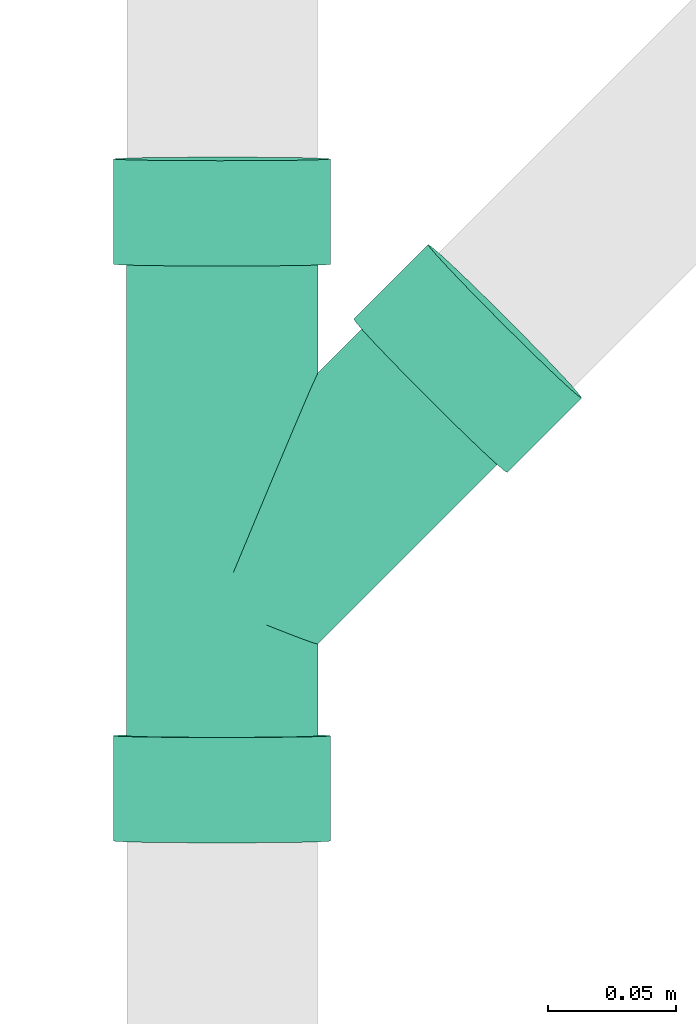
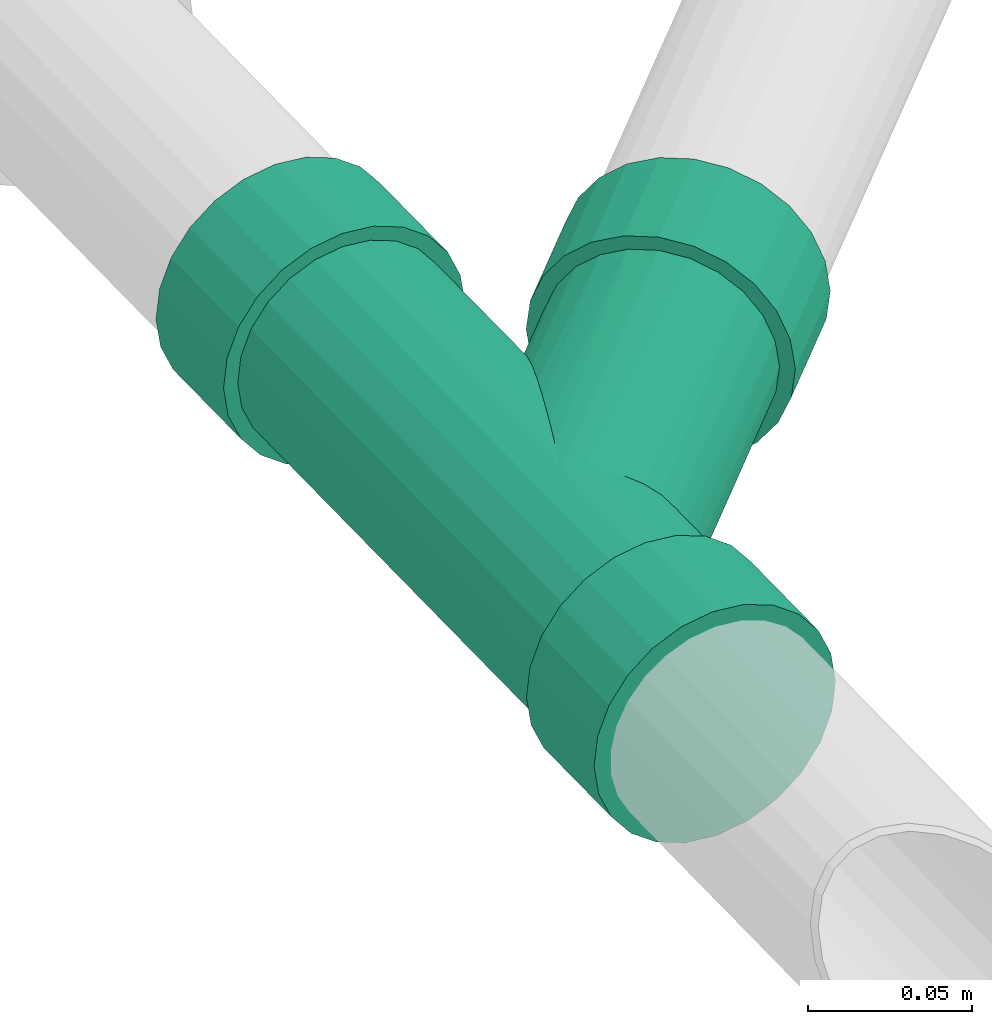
# One storey, part 14 of 18: 1 flow fitting.
"""IFC2X3 building model written with IfcOpenShell, lengths in millimetres."""

import ifcopenshell
import ifcopenshell.guid

model = None  # the IFC model being written
_history = None  # IfcOwnerHistory: only IFC2X3 demands one
_inside = {}  # id of a spatial element -> (the spatial element, [elements in it])
_under = {}  # id of a project, library or spatial element -> (it, [spatial elements below it])
_declared = {}  # id of a project -> (the project, [libraries it declares])
_typed = {}  # id of a type object -> (the type object, [elements of that type])
_made_of = {}  # id of a material, layer set ... -> (it, [elements and type objects made of it])


def new_model(schema):
    """Start an empty IFC model of exactly this schema.

    Asked for "IFC4X3", IfcOpenShell would pick the latest addendum, in which some entities
    have other attributes; the version numbers below select the first issue.
    IFC2X3 requires an IfcOwnerHistory on every rooted entity: one is made here for all.
    """
    global model, _history
    if schema == "IFC4X3":
        model = ifcopenshell.file(schema_version=(4, 3, 0, 0))
    else:
        model = ifcopenshell.file(schema=schema)
    _inside.clear()
    _under.clear()
    _declared.clear()
    _typed.clear()
    _made_of.clear()
    _history = None
    if model.schema == "IFC2X3":
        org = make("IfcOrganization", Name="unknown")
        user = make(
            "IfcPersonAndOrganization",
            ThePerson=make("IfcPerson", FamilyName="unknown"),
            TheOrganization=org,
        )
        app = make(
            "IfcApplication",
            ApplicationDeveloper=org,
            Version="unknown",
            ApplicationFullName="unknown",
            ApplicationIdentifier="unknown",
        )
        _history = make(
            "IfcOwnerHistory",
            OwningUser=user,
            OwningApplication=app,
            ChangeAction="ADDED",
            CreationDate=0,
        )
    return model


def make(cls, **values):
    """One entity of the class cls with the attributes given. An attribute that is None is left unset."""
    return model.create_entity(
        cls, **{name: value for name, value in values.items() if value is not None}
    )


def entity(cls, *values):
    """Any entity or typed value of the class cls, its attributes in the order of the schema. None: left unset."""
    e = model.create_entity(cls)
    for i, value in enumerate(values):
        if value is not None:
            e[i] = value
    return e


def rooted(cls, **values):
    """An entity with a GlobalId (a new one), such as an element, a storey or a relation."""
    return make(cls, GlobalId=ifcopenshell.guid.new(), OwnerHistory=_history, **values)


def si_unit(unit_type, name, prefix=None):
    """IfcSIUnit, for example si_unit("LENGTHUNIT", "METRE", prefix="MILLI")."""
    return make("IfcSIUnit", UnitType=unit_type, Prefix=prefix, Name=name)


def converted_unit(unit_type, name, factor, base, dimensions=None, offset=None):
    """IfcConversionBasedUnit, such as the inch: factor (a typed value) times the base unit."""
    return make(
        "IfcConversionBasedUnit"
        if offset is None
        else "IfcConversionBasedUnitWithOffset",
        ConversionOffset=offset,
        Dimensions=None
        if dimensions is None
        else entity("IfcDimensionalExponents", *dimensions),
        UnitType=unit_type,
        Name=name,
        ConversionFactor=make(
            "IfcMeasureWithUnit", ValueComponent=factor, UnitComponent=base
        ),
    )


def derived_unit(unit_type, elements):
    """IfcDerivedUnit: a product of units, each with its exponent."""
    return make(
        "IfcDerivedUnit",
        Elements=[
            make("IfcDerivedUnitElement", Unit=unit, Exponent=power)
            for unit, power in elements
        ],
        UnitType=unit_type,
    )


def assignment(units):
    """IfcUnitAssignment: the units of a project."""
    return None if units is None else make("IfcUnitAssignment", Units=units)


def point(xyz):
    """IfcCartesianPoint."""
    return None if xyz is None else make("IfcCartesianPoint", Coordinates=xyz)


def direction(xyz):
    """IfcDirection."""
    return None if xyz is None else make("IfcDirection", DirectionRatios=xyz)


def frame(location, z_axis=None, x_axis=None):
    """IfcAxis2Placement3D, a coordinate frame: its origin and axes. An axis left out is left unset."""
    return make(
        "IfcAxis2Placement3D",
        Location=point(location),
        Axis=direction(z_axis),
        RefDirection=direction(x_axis),
    )


def origin_with_axes():
    """The frame at (0, 0, 0) with the z axis (0, 0, 1) and the x axis (1, 0, 0) written out."""
    return frame((0.0, 0.0, 0.0), z_axis=(0.0, 0.0, 1.0), x_axis=(1.0, 0.0, 0.0))


def place(relative_to, where):
    """IfcLocalPlacement: puts the frame where relative to a parent placement (None: the world)."""
    return make(
        "IfcLocalPlacement", PlacementRelTo=relative_to, RelativePlacement=where
    )


def context(
    kind, dimensions, precision=None, world=None, true_north=None, identifier=None
):
    """IfcGeometricRepresentationContext, for example the 3D "Model" context."""
    return make(
        "IfcGeometricRepresentationContext",
        ContextIdentifier=identifier,
        ContextType=kind,
        CoordinateSpaceDimension=dimensions,
        Precision=precision,
        WorldCoordinateSystem=world,
        TrueNorth=true_north,
    )


def subcontext(parent, identifier, kind, view, scale=None):
    """IfcGeometricRepresentationSubContext, for example "Body" below "Model"."""
    return make(
        "IfcGeometricRepresentationSubContext",
        ContextIdentifier=identifier,
        ContextType=kind,
        ParentContext=parent,
        TargetScale=scale,
        TargetView=view,
    )


def project(units=None, contexts=None):
    """IfcProject with its units and contexts."""
    return rooted(
        "IfcProject",
        Name="project",
        RepresentationContexts=contexts,
        UnitsInContext=assignment(units),
    )


def spatial(cls, under=None, at=None, **own):
    """A site, building, storey or space (cls), placed at a placement, below another one or the project."""
    s = rooted(cls, ObjectPlacement=at, **own)
    if under is not None:
        _under.setdefault(under.id(), (under, []))[1].append(s)
    return s


def faces_of(points, faces, orient=None, outer=None):
    """IfcFace entities. A face is a list of loops; a loop is a list of indices into points, from 0.

    orient and outer hold one flag for each loop. By default every Orientation is true, the
    first loop of a face is its IfcFaceOuterBound and the others are IfcFaceBound.
    """
    made = []
    for i, loops in enumerate(faces):
        bounds = []
        for j, loop in enumerate(loops):
            is_outer = j == 0 if outer is None else outer[i][j]
            bounds.append(
                make(
                    "IfcFaceOuterBound" if is_outer else "IfcFaceBound",
                    Bound=make("IfcPolyLoop", Polygon=[points[k] for k in loop]),
                    Orientation=True if orient is None else orient[i][j],
                )
            )
        made.append(make("IfcFace", Bounds=bounds))
    return made


def open_shell(faces, orient=None, outer=None):
    """The faces of one IfcOpenShell. surface_model builds it on its shared points."""
    return ("IfcOpenShell", faces, orient, outer)


def surface_model(cls, points, shells):
    """IfcFaceBasedSurfaceModel or IfcShellBasedSurfaceModel (cls): surfaces that need not close."""
    shared = [point(p) for p in points]
    made = [make(c, CfsFaces=faces_of(shared, fs, o, b)) for c, fs, o, b in shells]
    if cls == "IfcFaceBasedSurfaceModel":
        return make(cls, FbsmFaces=made)
    return make(cls, SbsmBoundary=made)


def shape(context_of_items, identifier, shape_type, items):
    """IfcShapeRepresentation: the items that make up one representation, for example the "Body"."""
    return make(
        "IfcShapeRepresentation",
        ContextOfItems=context_of_items,
        RepresentationIdentifier=identifier,
        RepresentationType=shape_type,
        Items=items,
    )


def source(mapping_origin, context_of_items, identifier, shape_type, items):
    """IfcRepresentationMap: a shape defined once, which mapped items show again and again."""
    return make(
        "IfcRepresentationMap",
        MappingOrigin=mapping_origin,
        MappedRepresentation=shape(context_of_items, identifier, shape_type, items),
    )


def transform(
    local_origin,
    x_axis=None,
    y_axis=None,
    z_axis=None,
    scale=None,
    scale2=None,
    scale3=None,
    uniform=True,
):
    """IfcCartesianTransformationOperator3D, or its non-uniform kind. x_axis, y_axis, z_axis: its Axis1, 2, 3."""
    if uniform:
        return make(
            "IfcCartesianTransformationOperator3D",
            Axis1=direction(x_axis),
            Axis2=direction(y_axis),
            LocalOrigin=point(local_origin),
            Scale=scale,
            Axis3=direction(z_axis),
        )
    return make(
        "IfcCartesianTransformationOperator3DnonUniform",
        Axis1=direction(x_axis),
        Axis2=direction(y_axis),
        LocalOrigin=point(local_origin),
        Scale=scale,
        Axis3=direction(z_axis),
        Scale2=scale2,
        Scale3=scale3,
    )


def mapped(mapping_source, mapping_target):
    """IfcMappedItem: shows the shape of a source again, moved by a transform."""
    return make(
        "IfcMappedItem", MappingSource=mapping_source, MappingTarget=mapping_target
    )


def made_of(thing, what):
    """Note that an element or type object is made of a material, layer set ...; save() writes the relation."""
    if what is not None:
        _made_of.setdefault(what.id(), (what, []))[1].append(thing)
    return thing


def type_object(cls, material=None, **own):
    """A type object (cls), such as IfcWallType, which elements share."""
    return made_of(rooted(cls, **own), material)


def element(
    cls,
    number,
    at=None,
    inside=None,
    cuts=None,
    type_object=None,
    material=None,
    context=None,
    identifier="Body",
    shape_type=None,
    held_by="IfcProductDefinitionShape",
    body=None,
    shapes=None,
    **own,
):
    """One element of the class cls, such as IfcWall. Its Tag is "e" and its number.

    at: its placement. inside: the storey or other place that contains it. cuts: it is an
    opening in that element (IfcRelVoidsElement). A single representation is given by context,
    identifier, shape_type and body (its items); several are given by shapes. held_by: the class
    of the entity that holds the representations. save() writes the other relations.
    """
    e = rooted(cls, Tag="e%d" % number, ObjectPlacement=at, **own)
    if body is not None:
        shapes = [shape(context, identifier, shape_type, body)]
    if shapes is not None:
        e.Representation = make(held_by, Representations=shapes)
    if inside is not None:
        _inside.setdefault(inside.id(), (inside, []))[1].append(e)
    if cuts is not None:
        rooted(
            "IfcRelVoidsElement", RelatingBuildingElement=cuts, RelatedOpeningElement=e
        )
    if type_object is not None:
        _typed.setdefault(type_object.id(), (type_object, []))[1].append(e)
    return made_of(e, material)


def aggregate(whole, parts):
    """IfcRelAggregates: a whole, such as a stair, and the parts it consists of."""
    return rooted("IfcRelAggregates", RelatingObject=whole, RelatedObjects=parts)


def save(model, path):
    """Write the relations noted so far, then the file.

    IfcRelAggregates (storeys below a building ...), IfcRelContainedInSpatialStructure (elements
    in a storey), IfcRelDefinesByType, IfcRelAssociatesMaterial and IfcRelDeclares: one each for
    every whole, place, type object, material and project.
    """
    for whole, parts in _under.values():
        aggregate(whole, parts)
    for where, things in _inside.values():
        rooted(
            "IfcRelContainedInSpatialStructure",
            RelatedElements=things,
            RelatingStructure=where,
        )
    for kind, things in _typed.values():
        rooted("IfcRelDefinesByType", RelatedObjects=things, RelatingType=kind)
    for what, things in _made_of.values():
        rooted("IfcRelAssociatesMaterial", RelatedObjects=things, RelatingMaterial=what)
    for by, libraries in _declared.values():
        rooted("IfcRelDeclares", RelatingContext=by, RelatedDefinitions=libraries)
    model.write(path)


model = new_model("IFC2X3")

# Units and contexts
model_context = context("Model", 3, precision=0.01, world=frame((0.0, 4.29681676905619e-09, 0.0)), true_north=direction((4.01073788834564e-13, 1.0)))
plan_context = context("Plan", 3, precision=0.01, world=frame((0.0, 4.29681676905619e-09, 0.0)), true_north=direction((4.01073788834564e-13, 1.0)))
body_context = subcontext(model_context, "Body", "Model", "MODEL_VIEW")
ifc_project = project(units=[converted_unit("PLANEANGLEUNIT", "DEGREE", entity("IfcPositiveLengthMeasure", 0.0174532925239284), si_unit("PLANEANGLEUNIT", "RADIAN"), dimensions=[0, 0, 0, 0, 0, 0, 0]), si_unit("AREAUNIT", "SQUARE_METRE"), si_unit("LENGTHUNIT", "METRE", prefix="MILLI"), si_unit("MASSUNIT", "GRAM", prefix="KILO"), si_unit("POWERUNIT", "WATT"), si_unit("PRESSUREUNIT", "PASCAL", prefix="KILO"), si_unit("FORCEUNIT", "NEWTON", prefix="KILO"), si_unit("ELECTRICVOLTAGEUNIT", "VOLT"), si_unit("ELECTRICCURRENTUNIT", "AMPERE"), si_unit("THERMODYNAMICTEMPERATUREUNIT", "DEGREE_CELSIUS"), si_unit("TIMEUNIT", "SECOND"), si_unit("VOLUMEUNIT", "CUBIC_METRE"), derived_unit("LINEARVELOCITYUNIT", [(si_unit("LENGTHUNIT", "METRE"), 1), (si_unit("TIMEUNIT", "SECOND"), -1)]), derived_unit("VOLUMETRICFLOWRATEUNIT", [(si_unit("VOLUMEUNIT", "CUBIC_METRE"), 1), (si_unit("TIMEUNIT", "SECOND"), -1)]), derived_unit("THERMALTRANSMITTANCEUNIT", [(si_unit("POWERUNIT", "WATT"), 1), (si_unit("THERMODYNAMICTEMPERATUREUNIT", "KELVIN"), -1), (si_unit("AREAUNIT", "SQUARE_METRE"), -1)]), derived_unit("SOUNDPRESSUREUNIT", [(si_unit("PRESSUREUNIT", "PASCAL"), 1)])], contexts=[model_context, plan_context])

# Site, building, storey
site_placement = place(None, frame((0.0, -4.29681676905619e-09, 0.0), z_axis=(0.0, 0.0, 1.0), x_axis=(1.0, 0.0, 0.0)))
site = spatial("IfcSite", under=ifc_project, at=site_placement, Name="ENGM", CompositionType="ELEMENT")
building_placement = place(site_placement, frame((0.0, 4.29681676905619e-09, 0.0), z_axis=(0.0, 0.0, 1.0), x_axis=(1.0, 0.0, 0.0)))
building = spatial("IfcBuilding", under=site, at=building_placement, Name="TI", CompositionType="ELEMENT")
storey_placement = place(building_placement, frame((0.0, 0.0, 204000.0), z_axis=(0.0, 0.0, 1.0), x_axis=(1.0, 0.0, 0.0)))
storey = spatial("IfcBuildingStorey", under=building, at=storey_placement, Name="Nivå D", CompositionType="ELEMENT", Elevation=204000.0)

# Flow fitting
pipe_fitting_type = type_object("IfcPipeFittingType", Name="magi_sewer_tee_wye_NOR", PredefinedType="JUNCTION")
shared_shape = source(origin_with_axes(), body_context, "Body", "SurfaceModel", [
    surface_model("IfcShellBasedSurfaceModel", [(174.47758, 21.25, -36.80608), (174.47758, -10.99981, -41.05185), (174.47758, 10.99981, -41.05185), (174.47758, 36.80608, -21.25), (174.47758, 30.05204, -30.05204), (174.47758, 41.05185, -10.99981), (174.47758, 42.5, 0.0), (174.47758, -41.05185, -10.99981), (174.47758, -21.25, -36.80608), (174.47758, 0.0, -42.5), (174.47758, -30.05204, -30.05204), (174.47758, -36.80608, -21.25), (174.47758, 41.05185, 10.99981), (174.47758, 36.80608, 21.25), (174.47758, 30.05204, 30.05204), (174.47758, 10.99981, 41.05185), (174.47758, -36.80608, 21.25), (174.47758, 21.25, 36.80608), (174.47758, -10.99981, 41.05185), (174.47758, 0.0, 42.5), (174.47758, -41.05185, 10.99981), (174.47758, -42.5, 0.0), (174.47758, -30.05204, 30.05204), (174.47758, -21.25, 36.80608), (133.22758, 10.99981, 41.05185), (133.22758, -10.99981, 41.05185), (133.22758, 0.0, 42.5), (133.22758, 41.05185, 10.99981), (133.22758, 21.25, 36.80608), (133.22758, 30.05204, 30.05204), (133.22758, 36.80608, 21.25), (133.22758, -41.05185, -10.99981), (133.22758, -42.5, 0.0), (133.22758, -30.05204, 30.05204), (133.22758, -21.25, 36.80608), (133.22758, -36.80608, 21.25), (133.22758, -41.05185, 10.99981), (133.22758, 42.5, 0.0), (133.22758, 41.05185, -10.99981), (133.22758, 36.80608, -21.25), (133.22758, 21.25, -36.80608), (133.22758, 30.05204, -30.05204), (133.22758, -10.99981, -41.05185), (133.22758, 10.99981, -41.05185), (133.22758, -30.05204, -30.05204), (133.22758, -36.80608, -21.25), (133.22758, -21.25, -36.80608), (133.22758, 0.0, -42.5), (81.71415, -81.6952, -42.5), (73.93702, -89.47414, -41.05185), (89.49129, -73.91625, -41.05185), (96.73843, -66.66744, -36.80608), (102.96168, -60.44274, -30.05204), (110.73883, -52.66379, -10.99981), (107.73696, -55.66635, -21.25), (51.6656, -111.75072, 0.0), (66.68988, -96.72296, 36.80608), (60.46662, -102.94767, -30.05204), (55.69135, -107.72405, -21.25), (66.68988, -96.72296, -36.80608), (52.68948, -110.72661, -10.99981), (107.73696, -55.66635, 21.25), (110.73883, -52.66379, 10.99981), (111.76271, -51.63968, 0.0), (81.71415, -81.6952, 42.5), (96.73843, -66.66744, 36.80608), (102.96168, -60.44274, 30.05204), (89.49129, -73.91625, 41.05185), (55.69135, -107.72405, 21.25), (60.46662, -102.94767, 30.05204), (52.68948, -110.72661, 10.99981), (73.93702, -89.47414, 41.05185), (118.66283, -103.08103, -41.05185), (103.10855, -118.63892, -41.05185), (110.88569, -110.85997, -42.5), (132.13322, -89.6075, -30.05204), (125.90997, -95.8322, -36.80608), (136.9085, -84.83112, -21.25), (139.91036, -81.82856, -10.99981), (84.86288, -136.88882, 21.25), (81.86102, -139.89138, -10.99981), (95.86142, -125.88773, -36.80608), (84.86288, -136.88882, -21.25), (89.63816, -132.11243, -30.05204), (80.83714, -140.91549, 0.0), (125.90997, -95.8322, 36.80608), (140.93424, -80.80444, 0.0), (139.91036, -81.82856, 10.99981), (136.9085, -84.83112, 21.25), (95.86142, -125.88773, 36.80608), (132.13322, -89.6075, 30.05204), (110.88569, -110.85997, 42.5), (118.66283, -103.08103, 41.05185), (89.63816, -132.11243, 30.05204), (81.86102, -139.89138, 10.99981), (103.10855, -118.63892, 41.05185), (-92.76342, -21.25, -36.80608), (-92.76342, 10.99981, -41.05185), (-92.76342, -10.99981, -41.05185), (-92.76342, -36.80608, -21.25), (-92.76342, -30.05204, -30.05204), (-92.76342, -41.05185, -10.99981), (-92.76342, -42.5, 0.0), (-92.76342, 41.05185, -10.99981), (-92.76342, 21.25, -36.80608), (-92.76342, 0.0, -42.5), (-92.76342, 30.05204, -30.05204), (-92.76342, 36.80608, -21.25), (-92.76342, -41.05185, 10.99981), (-92.76342, -36.80608, 21.25), (-92.76342, -30.05204, 30.05204), (-92.76342, -10.99981, 41.05185), (-92.76342, 36.80608, 21.25), (-92.76342, -21.25, 36.80608), (-92.76342, 10.99981, 41.05185), (-92.76342, 0.0, 42.5), (-92.76342, 41.05185, 10.99981), (-92.76342, 42.5, 0.0), (-92.76342, 30.05204, 30.05204), (-92.76342, 21.25, 36.80608), (-51.51343, -10.99981, 41.05185), (-51.51343, 10.99981, 41.05185), (-51.51343, 0.0, 42.5), (-51.51343, -41.05185, 10.99981), (-51.51343, -21.25, 36.80608), (-51.51343, -30.05204, 30.05204), (-51.51343, -36.80608, 21.25), (-51.51343, 41.05185, -10.99981), (-51.51343, 42.5, 0.0), (-51.51343, 30.05204, 30.05204), (-51.51343, 21.25, 36.80608), (-51.51343, 36.80608, 21.25), (-51.51343, 41.05185, 10.99981), (-51.51343, -42.5, 0.0), (-51.51343, -41.05185, -10.99981), (-51.51343, -36.80608, -21.25), (-51.51343, -21.25, -36.80608), (-51.51343, -30.05204, -30.05204), (-51.51343, 10.99981, -41.05185), (-51.51343, -10.99981, -41.05185), (-51.51343, 30.05204, -30.05204), (-51.51343, 36.80608, -21.25), (-51.51343, 21.25, -36.80608), (-51.51343, 0.0, -42.5), (133.22758, 36.22222, -9.70571), (133.22758, 9.70571, -36.22222), (133.22758, 18.75, -32.47595), (133.22758, 32.47595, -18.75), (133.22758, 26.5165, -26.5165), (133.22758, 37.5, 0.0), (133.22758, -36.22222, -9.70571), (133.22758, 36.22222, 9.70571), (133.22758, 0.0, -37.5), (133.22758, -18.75, -32.47595), (133.22758, -9.70571, -36.22222), (133.22758, -32.47595, -18.75), (133.22758, -26.5165, -26.5165), (133.22758, 32.47595, 18.75), (133.22758, 26.5165, 26.5165), (133.22758, 18.75, 32.47595), (133.22758, 9.70571, 36.22222), (133.22758, 0.0, 37.5), (133.22758, -37.5, 0.0), (133.22758, -32.47595, 18.75), (133.22758, -36.22222, 9.70571), (133.22758, -26.5165, 26.5165), (133.22758, -18.75, 32.47595), (133.22758, -9.70571, 36.22222), (-51.51343, 0.0, 37.5), (-51.51343, 9.70571, 36.22222), (-51.51343, 18.75, 32.47595), (-51.51343, -36.22222, -9.70571), (-51.51343, 26.5165, 26.5165), (-51.51343, 32.47595, 18.75), (-51.51343, 36.22222, 9.70571), (-51.51343, -26.5165, 26.5165), (-51.51343, -18.75, 32.47595), (-51.51343, -9.70571, 36.22222), (-51.51343, -32.47595, 18.75), (-51.51343, -37.5, 0.0), (-51.51343, -36.22222, 9.70571), (-51.51343, 18.75, -32.47595), (-51.51343, 37.5, 0.0), (-51.51343, 36.22222, -9.70571), (-51.51343, 26.5165, -26.5165), (-51.51343, 32.47595, -18.75), (-51.51343, 9.70571, -36.22222), (-51.51343, -32.47595, -18.75), (-51.51343, -18.75, -32.47595), (-51.51343, -26.5165, -26.5165), (-51.51343, 0.0, -37.5), (-51.51343, -9.70571, -36.22222), (-51.51343, -36.86111, -4.85286), (-15.27435, -36.8816, -6.78213), (-15.40241, -37.1908, -3.39106), (-14.8974, -35.97141, -10.04239), (-51.51343, -29.49623, -22.63325), (-11.69301, -28.23405, -24.67971), (-12.50035, -30.18347, -22.00588), (-13.30769, -32.13288, -19.33205), (-51.51343, -34.34909, -14.22786), (-51.51343, -22.63325, -29.49623), (-7.53227, -18.18746, -32.7943), (-51.51343, -14.22786, -34.34909), (-5.12646, -12.37838, -35.3981), (-10.71865, -25.88136, -26.93996), (-9.74429, -23.52866, -29.2002), (-14.52045, -35.06122, -13.30266), (87.95789, -36.42737, -6.25084), (133.22758, -36.86111, -4.85286), (85.36792, -35.35475, -12.50167), (90.54786, -37.5, 0.0), (133.22758, -34.34909, -14.22786), (80.24594, -33.2335, -16.71837), (75.12396, -31.11226, -20.93507), (51.1039, -21.16446, -30.95667), (38.50203, -15.94545, -33.94102), (63.40909, -26.2606, -26.76997), (133.22758, -29.49623, -22.63325), (-2.59412, -6.26377, -36.97317), (-51.51343, -4.85286, -36.86111), (-15.53046, -37.5, 0.0), (0.0, 0.0, -37.5), (25.74039, -10.66027, -35.95287), (12.88908, -5.33796, -37.11814), (0.0, 0.0, 37.5), (-2.59412, -6.26377, 36.97317), (-51.51343, -4.85286, 36.86111), (85.36792, -35.35475, 12.50167), (133.22758, -34.34909, 14.22786), (-5.12646, -12.37838, 35.3981), (-7.53227, -18.18746, 32.7943), (-51.51343, -22.63325, 29.49623), (-9.74429, -23.52866, 29.2002), (133.22758, -36.86111, 4.85286), (87.95789, -36.42737, 6.25084), (75.12396, -31.11226, 20.93507), (133.22758, -29.49623, 22.63325), (-51.51343, -14.22786, 34.34909), (25.74039, -10.66027, 35.95287), (38.50203, -15.94545, 33.94102), (12.88908, -5.33796, 37.11814), (-15.27435, -36.8816, 6.78213), (-14.8974, -35.97141, 10.04239), (-10.71865, -25.88136, 26.93996), (-12.50035, -30.18347, 22.00588), (-11.69301, -28.23405, 24.67971), (-51.51343, -29.49623, 22.63325), (80.24594, -33.2335, 16.71837), (-13.30769, -32.13288, 19.33205), (-14.52045, -35.06122, 13.30266), (-51.51343, -34.34909, 14.22786), (-15.40241, -37.1908, 3.39106), (-51.51343, -36.86111, 4.85286), (51.1039, -21.16446, 30.95667), (63.40909, -26.2606, 26.76997), (81.71415, -81.6952, -37.5), (88.57633, -74.83142, -36.22222), (94.97087, -68.43541, -32.47595), (56.10415, -107.31115, 9.70571), (62.96633, -100.44738, -26.5165), (100.46198, -62.94302, -26.5165), (104.67546, -58.72857, 18.75), (104.67546, -58.72857, -18.75), (74.85197, -88.55897, -36.22222), (68.45744, -94.95499, -32.47595), (56.10415, -107.31115, -9.70571), (58.75285, -104.66183, -18.75), (55.20072, -108.21478, 0.0), (107.32416, -56.07925, -9.70571), (108.22758, -55.17562, 0.0), (107.32416, -56.07925, 9.70571), (100.46198, -62.94302, 26.5165), (94.97087, -68.43541, 32.47595), (88.57633, -74.83142, 36.22222), (81.71415, -81.6952, 37.5), (62.96633, -100.44738, 26.5165), (58.75285, -104.66183, 18.75), (68.45744, -94.95499, 32.47595), (74.85197, -88.55897, 36.22222), (107.77587, -55.62744, 4.85286), (105.99981, -57.40391, 14.22786), (107.77587, -55.62744, -4.85286), (105.99981, -57.40391, -14.22786)], [open_shell([[[0, 1, 2]], [[3, 0, 4]], [[3, 5, 6]], [[3, 6, 0]], [[1, 0, 6]], [[1, 7, 8]], [[1, 9, 2]], [[10, 7, 11]], [[7, 10, 8]], [[6, 7, 1]], [[6, 12, 7]], [[12, 13, 14]], [[12, 14, 15]], [[7, 15, 16]], [[15, 14, 17]], [[18, 15, 19]], [[16, 20, 7]], [[21, 7, 20]], [[22, 18, 23]], [[18, 22, 16]], [[18, 16, 15]], [[15, 7, 12]], [[24, 25, 26]], [[27, 24, 28]], [[29, 30, 27]], [[29, 27, 28]], [[31, 32, 24]], [[25, 33, 34]], [[33, 25, 35]], [[25, 36, 35]], [[36, 25, 32]], [[25, 24, 32]], [[24, 27, 31]], [[37, 38, 39]], [[37, 39, 40]], [[40, 31, 27]], [[40, 39, 41]], [[42, 40, 43]], [[31, 44, 45]], [[44, 31, 46]], [[31, 42, 46]], [[31, 40, 42]], [[43, 47, 42]], [[40, 27, 37]], [[31, 7, 32]], [[45, 11, 31]], [[46, 8, 44]], [[44, 10, 45]], [[31, 11, 7]], [[7, 21, 32]], [[9, 1, 42]], [[1, 8, 46]], [[10, 44, 8]], [[10, 11, 45]], [[42, 1, 46]], [[42, 47, 9]], [[2, 43, 40]], [[41, 0, 40]], [[3, 39, 38]], [[41, 39, 4]], [[5, 38, 37]], [[43, 2, 9]], [[40, 0, 2]], [[41, 4, 0]], [[39, 3, 4]], [[5, 3, 38]], [[37, 6, 5]], [[43, 9, 47]], [[27, 12, 37]], [[30, 13, 27]], [[17, 29, 28]], [[30, 29, 14]], [[15, 28, 24]], [[27, 13, 12]], [[12, 6, 37]], [[15, 26, 19]], [[15, 17, 28]], [[14, 29, 17]], [[14, 13, 30]], [[26, 15, 24]], [[18, 25, 34]], [[33, 23, 34]], [[16, 35, 36]], [[33, 35, 22]], [[20, 36, 32]], [[34, 23, 18]], [[18, 19, 25]], [[22, 23, 33]], [[35, 16, 22]], [[20, 16, 36]], [[32, 21, 20]], [[25, 19, 26]], [[48, 49, 50]], [[51, 50, 52]], [[53, 54, 52]], [[50, 53, 52]], [[50, 55, 56]], [[57, 58, 59]], [[49, 59, 58]], [[60, 55, 58]], [[49, 58, 55]], [[55, 50, 49]], [[61, 53, 50]], [[61, 62, 63]], [[56, 61, 50]], [[64, 65, 61]], [[66, 61, 65]], [[65, 64, 67]], [[68, 69, 55]], [[55, 70, 68]], [[71, 64, 56]], [[55, 69, 56]], [[56, 64, 61]], [[61, 63, 53]], [[72, 73, 74]], [[75, 72, 76]], [[75, 77, 78]], [[75, 78, 72]], [[79, 80, 72]], [[81, 82, 83]], [[82, 81, 73]], [[73, 80, 82]], [[73, 72, 80]], [[80, 79, 84]], [[79, 72, 78]], [[85, 86, 87]], [[85, 87, 88]], [[86, 85, 89]], [[85, 88, 90]], [[91, 85, 92]], [[79, 89, 93]], [[94, 84, 79]], [[89, 91, 95]], [[89, 79, 86]], [[91, 89, 85]], [[79, 78, 86]], [[94, 55, 84]], [[79, 70, 94]], [[69, 93, 89]], [[79, 93, 68]], [[56, 89, 95]], [[79, 68, 70]], [[70, 55, 94]], [[91, 64, 71]], [[69, 89, 56]], [[69, 68, 93]], [[95, 71, 56]], [[71, 95, 91]], [[65, 92, 85]], [[90, 66, 85]], [[62, 88, 87]], [[90, 88, 61]], [[63, 87, 86]], [[92, 67, 91]], [[92, 65, 67]], [[91, 67, 64]], [[85, 66, 65]], [[90, 61, 66]], [[62, 61, 88]], [[87, 63, 62]], [[78, 63, 86]], [[77, 53, 78]], [[75, 76, 52]], [[77, 75, 54]], [[50, 76, 72]], [[77, 54, 53]], [[53, 63, 78]], [[51, 52, 76]], [[50, 72, 48]], [[52, 54, 75]], [[76, 50, 51]], [[72, 74, 48]], [[59, 73, 81]], [[83, 57, 81]], [[60, 82, 80]], [[83, 82, 58]], [[55, 80, 84]], [[73, 49, 74]], [[73, 59, 49]], [[74, 49, 48]], [[81, 57, 59]], [[83, 58, 57]], [[60, 58, 82]], [[80, 55, 60]], [[96, 97, 98]], [[99, 96, 100]], [[99, 101, 102]], [[99, 102, 96]], [[97, 96, 102]], [[97, 103, 104]], [[97, 105, 98]], [[106, 103, 107]], [[103, 106, 104]], [[102, 103, 97]], [[102, 108, 103]], [[108, 109, 110]], [[108, 110, 111]], [[103, 111, 112]], [[111, 110, 113]], [[114, 111, 115]], [[112, 116, 103]], [[117, 103, 116]], [[118, 114, 119]], [[114, 118, 112]], [[114, 112, 111]], [[111, 103, 108]], [[120, 121, 122]], [[123, 120, 124]], [[125, 126, 123]], [[125, 123, 124]], [[127, 128, 120]], [[121, 129, 130]], [[129, 121, 131]], [[121, 132, 131]], [[132, 121, 128]], [[121, 120, 128]], [[120, 123, 127]], [[133, 134, 135]], [[133, 135, 136]], [[136, 127, 123]], [[136, 135, 137]], [[138, 136, 139]], [[127, 140, 141]], [[140, 127, 142]], [[127, 138, 142]], [[127, 136, 138]], [[139, 143, 138]], [[136, 123, 133]], [[127, 103, 128]], [[141, 107, 127]], [[142, 104, 140]], [[140, 106, 141]], [[127, 107, 103]], [[103, 117, 128]], [[105, 97, 138]], [[97, 104, 142]], [[106, 140, 104]], [[106, 107, 141]], [[138, 97, 142]], [[138, 143, 105]], [[98, 139, 136]], [[137, 96, 136]], [[99, 135, 134]], [[137, 135, 100]], [[101, 134, 133]], [[139, 98, 105]], [[136, 96, 98]], [[137, 100, 96]], [[135, 99, 100]], [[101, 99, 134]], [[133, 102, 101]], [[139, 105, 143]], [[123, 108, 133]], [[126, 109, 123]], [[113, 125, 124]], [[126, 125, 110]], [[111, 124, 120]], [[123, 109, 108]], [[108, 102, 133]], [[111, 122, 115]], [[111, 113, 124]], [[110, 125, 113]], [[110, 109, 126]], [[122, 111, 120]], [[114, 121, 130]], [[129, 119, 130]], [[112, 131, 132]], [[129, 131, 118]], [[116, 132, 128]], [[130, 119, 114]], [[114, 115, 121]], [[118, 119, 129]], [[131, 112, 118]], [[116, 112, 132]], [[128, 117, 116]], [[121, 115, 122]], [[144, 145, 146]], [[147, 146, 148]], [[144, 149, 145]], [[144, 146, 147]], [[150, 145, 151]], [[152, 153, 154]], [[153, 152, 155]], [[153, 155, 156]], [[155, 152, 150]], [[152, 145, 150]], [[145, 149, 151]], [[151, 157, 158]], [[151, 158, 159]], [[159, 160, 161]], [[159, 161, 151]], [[151, 161, 162]], [[162, 163, 164]], [[163, 162, 165]], [[161, 166, 165]], [[165, 162, 161]], [[167, 166, 161]], [[151, 162, 150]], [[168, 169, 170]], [[171, 168, 170]], [[172, 173, 174]], [[172, 174, 170]], [[175, 168, 171]], [[168, 176, 177]], [[168, 175, 176]], [[178, 179, 180]], [[179, 178, 175]], [[175, 171, 179]], [[174, 171, 170]], [[181, 182, 183]], [[184, 183, 185]], [[182, 181, 171]], [[181, 183, 184]], [[171, 181, 186]], [[187, 188, 189]], [[190, 187, 171]], [[188, 190, 191]], [[190, 188, 187]], [[171, 186, 190]], [[182, 171, 174]], [[192, 171, 193]], [[179, 192, 194]], [[195, 193, 171]], [[196, 197, 198]], [[187, 199, 200]], [[197, 196, 189]], [[201, 188, 202]], [[202, 203, 204]], [[187, 196, 198]], [[205, 197, 189]], [[192, 193, 194]], [[202, 206, 201]], [[199, 207, 200]], [[187, 198, 199]], [[208, 150, 209]], [[210, 150, 208]], [[209, 211, 208]], [[150, 210, 212]], [[213, 214, 155]], [[207, 171, 200]], [[206, 189, 201]], [[153, 215, 216]], [[217, 215, 156]], [[156, 218, 217]], [[156, 215, 153]], [[214, 218, 155]], [[171, 207, 195]], [[219, 191, 220]], [[179, 194, 221]], [[203, 202, 188]], [[190, 222, 220]], [[211, 209, 162]], [[219, 204, 191]], [[219, 220, 222]], [[217, 218, 214]], [[190, 186, 222]], [[189, 206, 205]], [[148, 184, 185]], [[147, 185, 183]], [[145, 186, 181]], [[146, 181, 184]], [[145, 222, 186]], [[144, 183, 182]], [[223, 224, 154]], [[212, 213, 155]], [[223, 154, 216]], [[154, 224, 152]], [[216, 154, 153]], [[222, 152, 224]], [[213, 212, 210]], [[145, 152, 222]], [[146, 145, 181]], [[146, 184, 148]], [[147, 148, 185]], [[144, 147, 183]], [[182, 149, 144]], [[204, 203, 191]], [[172, 157, 173]], [[173, 157, 174]], [[151, 182, 174]], [[158, 172, 170]], [[225, 169, 168]], [[226, 227, 177]], [[228, 164, 229]], [[225, 168, 227]], [[230, 226, 177]], [[225, 227, 226]], [[231, 232, 233]], [[170, 169, 159]], [[225, 160, 169]], [[211, 234, 235]], [[151, 174, 157]], [[159, 158, 170]], [[157, 172, 158]], [[149, 182, 151]], [[236, 163, 237]], [[230, 177, 238]], [[239, 240, 167]], [[241, 239, 167]], [[161, 160, 225]], [[161, 241, 167]], [[240, 166, 167]], [[160, 159, 169]], [[161, 225, 241]], [[238, 176, 231]], [[232, 175, 233]], [[180, 242, 243]], [[244, 233, 175]], [[245, 246, 247]], [[163, 236, 248]], [[178, 249, 245]], [[232, 231, 176]], [[250, 251, 180]], [[179, 221, 252]], [[179, 252, 253]], [[243, 250, 180]], [[242, 253, 252]], [[178, 245, 247]], [[251, 249, 178]], [[254, 166, 240]], [[249, 251, 250]], [[254, 165, 166]], [[165, 254, 255]], [[255, 236, 237]], [[242, 180, 253]], [[246, 175, 247]], [[175, 246, 244]], [[164, 228, 235]], [[228, 229, 248]], [[229, 163, 248]], [[235, 234, 164]], [[237, 165, 255]], [[211, 162, 234]], [[231, 230, 238]], [[256, 257, 258]], [[259, 256, 258]], [[260, 256, 259]], [[258, 261, 259]], [[262, 261, 263]], [[264, 260, 265]], [[264, 256, 260]], [[260, 266, 267]], [[266, 260, 268]], [[260, 259, 268]], [[263, 269, 262]], [[270, 271, 262]], [[261, 262, 259]], [[272, 273, 274]], [[262, 272, 259]], [[274, 275, 272]], [[259, 276, 277]], [[276, 259, 278]], [[278, 275, 279]], [[275, 278, 259]], [[259, 272, 275]], [[262, 269, 270]], [[242, 221, 268]], [[259, 242, 268]], [[276, 278, 233]], [[246, 277, 276]], [[250, 259, 277]], [[230, 278, 279]], [[211, 280, 270]], [[250, 242, 259]], [[235, 271, 280]], [[246, 249, 277]], [[250, 277, 249]], [[231, 233, 278]], [[226, 230, 279]], [[231, 278, 230]], [[246, 276, 233]], [[248, 281, 228]], [[279, 275, 226]], [[273, 240, 274]], [[274, 241, 275]], [[254, 273, 272]], [[211, 235, 280]], [[272, 262, 236]], [[271, 228, 281]], [[235, 228, 271]], [[240, 239, 274]], [[241, 225, 275]], [[239, 241, 274]], [[281, 248, 262]], [[248, 236, 262]], [[255, 254, 272]], [[236, 255, 272]], [[240, 273, 254]], [[275, 225, 226]], [[269, 208, 282]], [[270, 282, 211]], [[261, 258, 215]], [[263, 261, 214]], [[213, 283, 263]], [[216, 258, 257]], [[211, 282, 208]], [[210, 283, 213]], [[215, 217, 261]], [[214, 261, 217]], [[223, 216, 257]], [[256, 222, 224]], [[223, 257, 224]], [[215, 258, 216]], [[263, 214, 213]], [[224, 257, 256]], [[265, 204, 264]], [[264, 219, 256]], [[206, 265, 260]], [[193, 266, 268]], [[260, 267, 197]], [[266, 207, 267]], [[268, 221, 193]], [[206, 202, 265]], [[204, 219, 264]], [[202, 204, 265]], [[210, 269, 283]], [[193, 207, 266]], [[269, 210, 208]], [[199, 197, 267]], [[207, 199, 267]], [[206, 260, 197]], [[256, 219, 222]]])]),
])
flow_fitting_placement = place(storey_placement, frame((590977.2116, 577455.19837, 5983.70920000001), z_axis=(-0.0262210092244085, -0.0166590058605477, 0.999517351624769), x_axis=(-1.92229198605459e-08, 0.999861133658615, 0.0166647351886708)))
element("IfcFlowFitting", 1, at=flow_fitting_placement, inside=storey, type_object=pipe_fitting_type, Name="magi_sewer_tee_wye_NOR", context=body_context, shape_type="MappedRepresentation", body=[
    mapped(shared_shape, transform((0.0, 0.0, 0.0), scale=1.0)),
])

save(model, "model.ifc")
